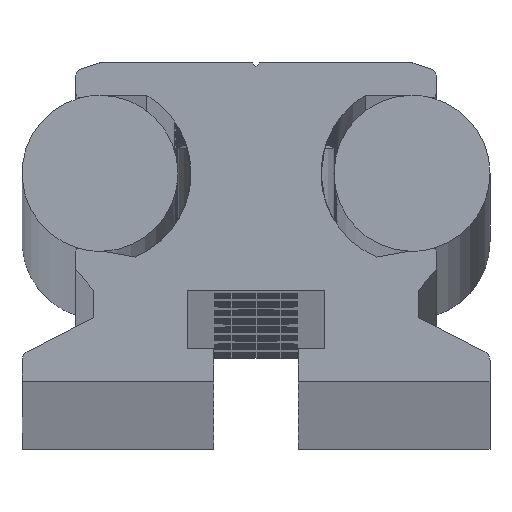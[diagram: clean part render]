
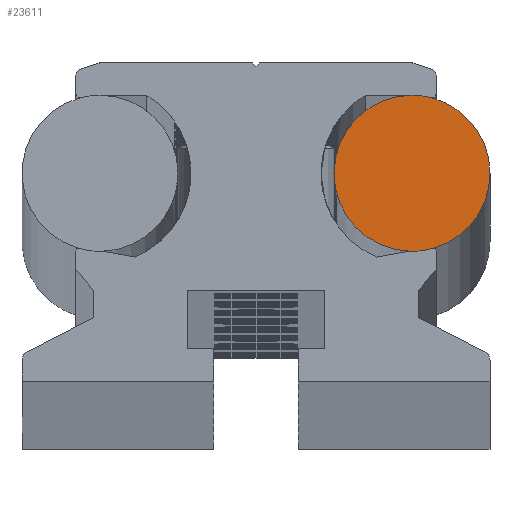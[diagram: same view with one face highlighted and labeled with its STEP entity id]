
A CAD part, top view. The second image highlights one B-rep face of the part: STEP entity #23611.
In plain terms, the highlighted planar face has unit normal (0, 0, 1).
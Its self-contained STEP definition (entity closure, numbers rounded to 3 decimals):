
#1495 = EDGE_CURVE ( 'NONE', #54760, #54761, #18425, .T. ) ;
#4349 = CARTESIAN_POINT ( 'NONE',  ( 12., 16., -0.5 ) ) ;
#4350 = DIRECTION ( 'NONE',  ( 0., 0., -1. ) ) ;
#4351 = DIRECTION ( 'NONE',  ( 1., 0., 0. ) ) ;
#7009 = AXIS2_PLACEMENT_3D ( 'NONE', #37578, #37585, #37586 ) ;
#7362 = AXIS2_PLACEMENT_3D ( 'NONE', #43331, #43332, #43333 ) ;
#7386 = AXIS2_PLACEMENT_3D ( 'NONE', #43355, #43365, #43366 ) ;
#8725 = AXIS2_PLACEMENT_3D ( 'NONE', #4349, #4350, #4351 ) ;
#9128 = AXIS2_PLACEMENT_3D ( 'NONE', #19526, #19527, #19528 ) ;
#9132 = AXIS2_PLACEMENT_3D ( 'NONE', #19518, #19537, #19538 ) ;
#14112 = EDGE_CURVE ( 'NONE', #55146, #55139, #14386, .T. ) ;
#14115 = EDGE_CURVE ( 'NONE', #55138, #54761, #14395, .T. ) ;
#14386 = CIRCLE ( 'NONE', #9128, 6. ) ;
#14395 = CIRCLE ( 'NONE', #9132, 6. ) ;
#14821 = ORIENTED_EDGE ( 'NONE', *, *, #14112, .T. ) ;
#14823 = ORIENTED_EDGE ( 'NONE', *, *, #25779, .T. ) ;
#14824 = ORIENTED_EDGE ( 'NONE', *, *, #14115, .T. ) ;
#14826 = ORIENTED_EDGE ( 'NONE', *, *, #1495, .F. ) ;
#14827 = ORIENTED_EDGE ( 'NONE', *, *, #25803, .F. ) ;
#18425 = CIRCLE ( 'NONE', #8725, 6. ) ;
#19518 = CARTESIAN_POINT ( 'NONE',  ( 12., 16., -0.5 ) ) ;
#19526 = CARTESIAN_POINT ( 'NONE',  ( 12., 16., -0.5 ) ) ;
#19527 = DIRECTION ( 'NONE',  ( 0., 0., 1. ) ) ;
#19528 = DIRECTION ( 'NONE',  ( 1., 0., 0. ) ) ;
#19537 = DIRECTION ( 'NONE',  ( 0., 0., 1. ) ) ;
#19538 = DIRECTION ( 'NONE',  ( 1., 0., 0. ) ) ;
#23611 = ADVANCED_FACE ( 'NONE', ( #35920 ), #37582, .T. ) ;
#25779 = EDGE_CURVE ( 'NONE', #55139, #55138, #36263, .T. ) ;
#25803 = EDGE_CURVE ( 'NONE', #55146, #54760, #36280, .T. ) ;
#35920 = FACE_OUTER_BOUND ( 'NONE', #54700, .T. ) ;
#36263 = CIRCLE ( 'NONE', #7362, 6. ) ;
#36280 = CIRCLE ( 'NONE', #7386, 6. ) ;
#37578 = CARTESIAN_POINT ( 'NONE',  ( 12., 16., -0.5 ) ) ;
#37582 = PLANE ( 'NONE',  #7009 ) ;
#37585 = DIRECTION ( 'NONE',  ( 0., 0., 1. ) ) ;
#37586 = DIRECTION ( 'NONE',  ( 1., 0., 0. ) ) ;
#43331 = CARTESIAN_POINT ( 'NONE',  ( 12., 16., -0.5 ) ) ;
#43332 = DIRECTION ( 'NONE',  ( 0., 0., 1. ) ) ;
#43333 = DIRECTION ( 'NONE',  ( 1., 0., 0. ) ) ;
#43355 = CARTESIAN_POINT ( 'NONE',  ( 12., 16., -0.5 ) ) ;
#43365 = DIRECTION ( 'NONE',  ( 0., 0., -1. ) ) ;
#43366 = DIRECTION ( 'NONE',  ( 1., 0., 0. ) ) ;
#53147 = CARTESIAN_POINT ( 'NONE',  ( 18., 16., -0.5 ) ) ;
#53148 = CARTESIAN_POINT ( 'NONE',  ( 13.719, 10.251, -0.5 ) ) ;
#53525 = CARTESIAN_POINT ( 'NONE',  ( 11.819, 10.003, -0.5 ) ) ;
#53526 = CARTESIAN_POINT ( 'NONE',  ( 12., 22., -0.5 ) ) ;
#53533 = CARTESIAN_POINT ( 'NONE',  ( 13.516, 21.805, -0.5 ) ) ;
#54700 = EDGE_LOOP ( 'NONE', ( #14821, #14823, #14824, #14826, #14827 ) ) ;
#54760 = VERTEX_POINT ( 'NONE', #53147 ) ;
#54761 = VERTEX_POINT ( 'NONE', #53148 ) ;
#55138 = VERTEX_POINT ( 'NONE', #53525 ) ;
#55139 = VERTEX_POINT ( 'NONE', #53526 ) ;
#55146 = VERTEX_POINT ( 'NONE', #53533 ) ;
